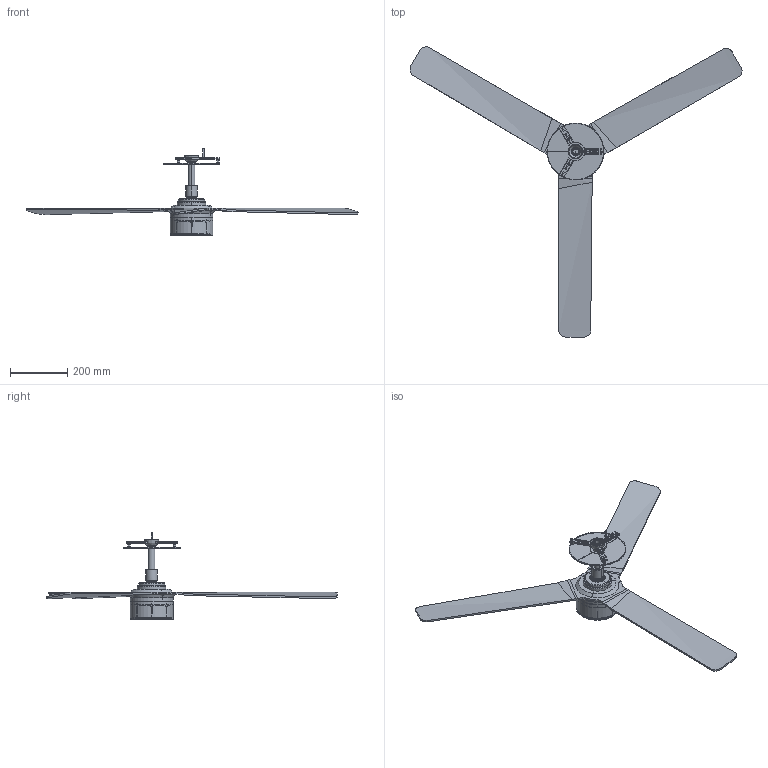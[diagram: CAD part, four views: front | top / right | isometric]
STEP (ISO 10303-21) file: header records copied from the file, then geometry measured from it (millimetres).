
FILE_DESCRIPTION(/* description */ (''),/* implementation_level */ '2;1');
FILE_NAME(/* name */ 'punt_recess_tek_m_3d',/* time_stamp */ '2026-06-25T12:36:30+02:00',/* author */ (''),/* organization */ (''),/* preprocessor_version */ 'ST-DEVELOPER v19.2',/* originating_system */ 'Rhino 8.30',/* authorisation */ '');
FILE_SCHEMA (('CONFIG_CONTROL_DESIGN'));
Length unit declared in the file: millimetre
Products named in the file (1): Document
Bounding box: 1164.28 x 1017.62 x 308.07 mm (x, y, z)
Volume: 2282834.7 mm3; surface area: 813742.6 mm2
Topology: 9 solids, 13 shells, 1140 faces, 3061 edges, 1920 vertices
Faces by surface type: plane 459, cylinder 369, bspline 312
Entity records: 58070 total; most frequent: CARTESIAN_POINT 27641, ORIENTED_EDGE 6100, EDGE_CURVE 3058, DIRECTION 2780, VERTEX_POINT 1918, AXIS2_PLACEMENT_3D 1804, B_SPLINE_CURVE_WITH_KNOTS 1749, EDGE_LOOP 1215
